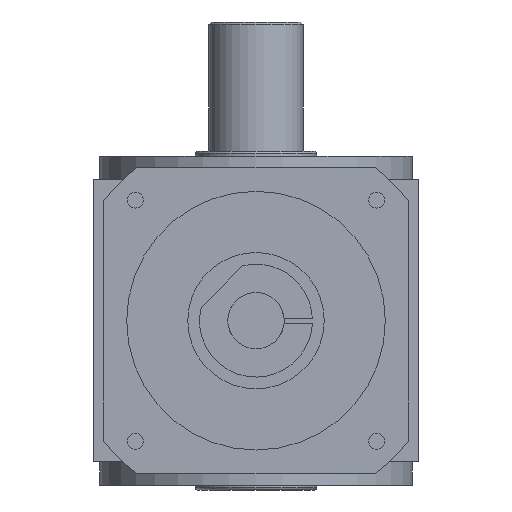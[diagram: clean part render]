
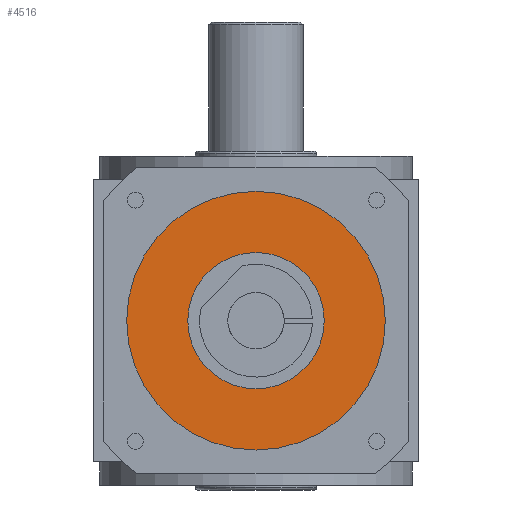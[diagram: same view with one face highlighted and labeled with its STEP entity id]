
A CAD part, front view. The second image highlights one B-rep face of the part: STEP entity #4516.
In plain terms, the highlighted planar face has unit normal (0, -1, 0) as drawn and (0, 0, -1) by its records, which use the part's own axes.
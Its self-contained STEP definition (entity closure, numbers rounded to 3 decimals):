
#459 = FACE_BOUND ( 'NONE', #5453, .T. ) ;
#545 = CIRCLE ( 'NONE', #5039, 29. ) ;
#674 = DIRECTION ( 'NONE',  ( -1., 0., 0. ) ) ;
#788 = AXIS2_PLACEMENT_3D ( 'NONE', #2814, #9440, #2913 ) ;
#1104 = FACE_OUTER_BOUND ( 'NONE', #6986, .T. ) ;
#1148 = CARTESIAN_POINT ( 'NONE',  ( 29., 0., -151. ) ) ;
#1439 = CARTESIAN_POINT ( 'NONE',  ( 55., 0., -151. ) ) ;
#1861 = VERTEX_POINT ( 'NONE', #1148 ) ;
#1879 = DIRECTION ( 'NONE',  ( 0., 0., 1. ) ) ;
#1950 = VERTEX_POINT ( 'NONE', #5740 ) ;
#2318 = EDGE_CURVE ( 'NONE', #1950, #1861, #545, .T. ) ;
#2455 = EDGE_CURVE ( 'NONE', #6249, #3096, #5124, .T. ) ;
#2597 = ORIENTED_EDGE ( 'NONE', *, *, #2318, .T. ) ;
#2814 = CARTESIAN_POINT ( 'NONE',  ( 0., 0., -151. ) ) ;
#2913 = DIRECTION ( 'NONE',  ( -1., 0., 0. ) ) ;
#3092 = CARTESIAN_POINT ( 'NONE',  ( 0., 0., -151. ) ) ;
#3096 = VERTEX_POINT ( 'NONE', #1439 ) ;
#3262 = CARTESIAN_POINT ( 'NONE',  ( 0., 0., -151. ) ) ;
#3303 = CIRCLE ( 'NONE', #4555, 29. ) ;
#3477 = CIRCLE ( 'NONE', #5038, 55. ) ;
#4041 = PLANE ( 'NONE',  #9173 ) ;
#4100 = DIRECTION ( 'NONE',  ( -1., 0., 0. ) ) ;
#4516 = ADVANCED_FACE ( 'NONE', ( #459, #1104 ), #4041, .T. ) ;
#4555 = AXIS2_PLACEMENT_3D ( 'NONE', #5615, #1879, #4100 ) ;
#4683 = DIRECTION ( 'NONE',  ( 0., 0., -1. ) ) ;
#5038 = AXIS2_PLACEMENT_3D ( 'NONE', #3092, #6059, #674 ) ;
#5039 = AXIS2_PLACEMENT_3D ( 'NONE', #8833, #9607, #5868 ) ;
#5124 = CIRCLE ( 'NONE', #788, 55. ) ;
#5406 = ORIENTED_EDGE ( 'NONE', *, *, #5484, .T. ) ;
#5453 = EDGE_LOOP ( 'NONE', ( #2597, #5406 ) ) ;
#5484 = EDGE_CURVE ( 'NONE', #1861, #1950, #3303, .T. ) ;
#5606 = DIRECTION ( 'NONE',  ( -1., 0., 0. ) ) ;
#5615 = CARTESIAN_POINT ( 'NONE',  ( 0., 0., -151. ) ) ;
#5740 = CARTESIAN_POINT ( 'NONE',  ( -29., 0., -151. ) ) ;
#5868 = DIRECTION ( 'NONE',  ( -1., 0., 0. ) ) ;
#6059 = DIRECTION ( 'NONE',  ( 0., 0., -1. ) ) ;
#6249 = VERTEX_POINT ( 'NONE', #7900 ) ;
#6986 = EDGE_LOOP ( 'NONE', ( #9250, #7140 ) ) ;
#7140 = ORIENTED_EDGE ( 'NONE', *, *, #7768, .T. ) ;
#7768 = EDGE_CURVE ( 'NONE', #3096, #6249, #3477, .T. ) ;
#7900 = CARTESIAN_POINT ( 'NONE',  ( -55., 0., -151. ) ) ;
#8833 = CARTESIAN_POINT ( 'NONE',  ( 0., 0., -151. ) ) ;
#9173 = AXIS2_PLACEMENT_3D ( 'NONE', #3262, #4683, #5606 ) ;
#9250 = ORIENTED_EDGE ( 'NONE', *, *, #2455, .T. ) ;
#9440 = DIRECTION ( 'NONE',  ( 0., 0., -1. ) ) ;
#9607 = DIRECTION ( 'NONE',  ( 0., 0., 1. ) ) ;
